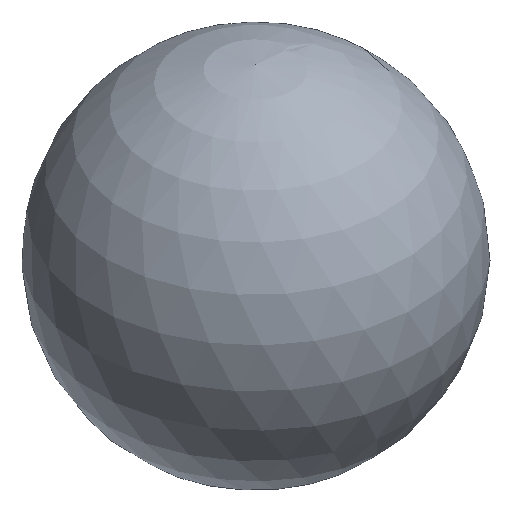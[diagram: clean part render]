
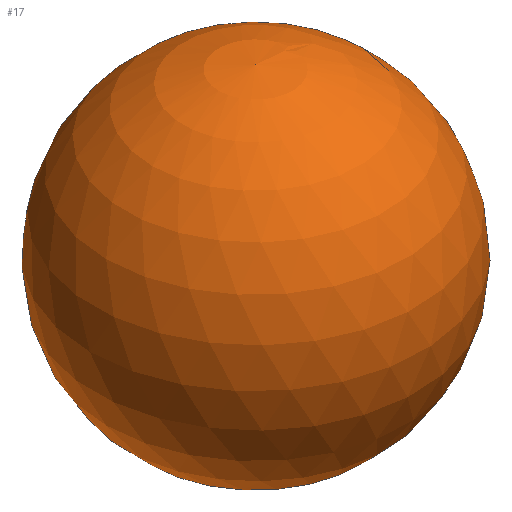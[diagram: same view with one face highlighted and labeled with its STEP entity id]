
A CAD part, isometric view. The second image highlights one B-rep face of the part: STEP entity #17.
In plain terms, the highlighted spherical face has radius 100 mm.
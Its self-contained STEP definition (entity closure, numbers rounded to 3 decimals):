
#17 = ADVANCED_FACE('',(#18),#22,.T.);
#18 = FACE_BOUND('',#19,.T.);
#19 = VERTEX_LOOP('',#20);
#20 = VERTEX_POINT('',#21);
#21 = CARTESIAN_POINT('',(0.,0.,-100.
    ));
#22 = SPHERICAL_SURFACE('',#23,100.);
#23 = AXIS2_PLACEMENT_3D('',#24,#25,#26);
#24 = CARTESIAN_POINT('',(0.,0.,0.));
#25 = DIRECTION('',(0.,0.,1.));
#26 = DIRECTION('',(1.,0.,0.));
